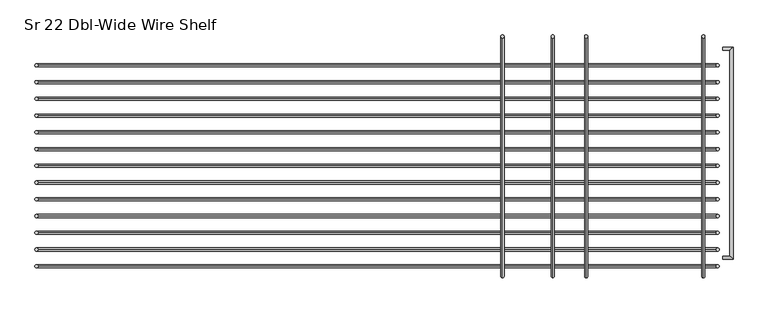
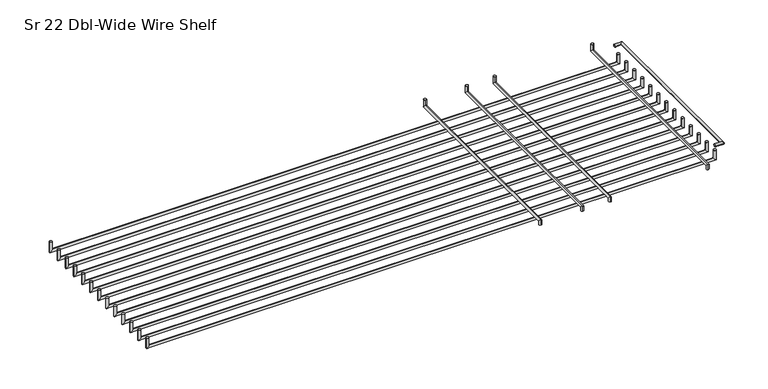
"""IFC4 building model written with IfcOpenShell, lengths in millimetres: furniture geometry, HermanMiller_Carts_CT521_CartShelf : Sr 22 Dbl-Wide Wire Shelf."""

from ifc_helpers import new_model, si_unit, frame, origin, place, context, project, spatial, circle_curve, ellipse_curve, source, transform, mapped, element, save
from ifc_brep_helpers import plane_surface, cylinder_surface, advanced_brep


def sr_22_dbl_wide_wire_shelf_071ba13a(model_context):
    return source(origin(), model_context, "Body", "AdvancedBrep", [
        advanced_brep(
        [(743.3373883, -178.26736, 1556.5501), (743.3373883, -183.04256, 1556.5501), (743.3373883, 133.81736, 1556.5501), (743.3373883, 138.59256, 1556.5501), (759.2123883, -183.04256, 1556.5501), (754.4371883, -178.26736, 1556.5501), (759.2123883, 138.59256, 1556.5501), (754.4371883, 133.81736, 1556.5501)],
        [
            (0, 1, circle_curve(frame((743.3373883, -180.65496, 1556.5501), z_axis=(-1.0, 0.0, 0.0), x_axis=(0.0, -1.0, 0.0)), 2.3876)),
            (1, 0, circle_curve(frame((743.3373883, -180.65496, 1556.5501), z_axis=(-1.0, 0.0, 0.0), x_axis=(0.0, -1.0, 0.0)), 2.3876)),
            (2, 3, circle_curve(frame((743.3373883, 136.20496, 1556.5501), z_axis=(-1.0, 0.0, 0.0), x_axis=(0.0, 1.0, 0.0)), 2.3876)),
            (3, 2, circle_curve(frame((743.3373883, 136.20496, 1556.5501), z_axis=(-1.0, 0.0, 0.0), x_axis=(0.0, 1.0, 0.0)), 2.3876)),
            (1, 4),
            (4, 5, ellipse_curve(frame((756.8247883, -180.65496, 1556.5501), z_axis=(-0.7071067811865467, -0.7071067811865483, 0.0), x_axis=(-0.7071067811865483, 0.7071067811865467, 0.0)), 3.3765763, 2.3876)),
            (5, 0),
            (5, 4, ellipse_curve(frame((756.8247883, -180.65496, 1556.5501), z_axis=(-0.7071067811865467, -0.7071067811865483, 0.0), x_axis=(-0.7071067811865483, 0.7071067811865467, 0.0)), 3.3765763, 2.3876)),
            (4, 6),
            (6, 7, ellipse_curve(frame((756.8247883, 136.20496, 1556.5501), z_axis=(0.7071067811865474, -0.7071067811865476, 0.0), x_axis=(-0.7071067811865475, -0.7071067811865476, 0.0)), 3.3765763, 2.3876)),
            (7, 5),
            (7, 6, ellipse_curve(frame((756.8247883, 136.20496, 1556.5501), z_axis=(0.7071067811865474, -0.7071067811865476, 0.0), x_axis=(-0.7071067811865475, -0.7071067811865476, 0.0)), 3.3765763, 2.3876)),
            (6, 3),
            (2, 7),
        ],
        [
            plane_surface(frame((743.3373883, -180.65496, 1556.5501), z_axis=(-1.0, 0.0, 0.0), x_axis=(0.0, 0.0, 1.0))),
            plane_surface(frame((743.3373883, 136.20496, 1556.5501), z_axis=(-1.0, 0.0, 0.0), x_axis=(0.0, 0.0, 1.0))),
            cylinder_surface(frame((743.3373883, -180.65496, 1556.5501), z_axis=(-1.0, 0.0, 0.0), x_axis=(0.0, -1.0, 0.0)), 2.3876),
            cylinder_surface(frame((756.8247883, -180.65496, 1556.5501), z_axis=(0.0, -1.0, 0.0), x_axis=(1.0, 0.0, 0.0)), 2.3876),
            cylinder_surface(frame((756.8247883, 136.20496, 1556.5501), z_axis=(1.0, 0.0, 0.0), x_axis=(0.0, 1.0, 0.0)), 2.3876),
        ],
        [
            (0, [[1, 2]]),
            (1, [[3, 4]]),
            (2, [[5, 6, 7, -2]]),
            (2, [[-7, 8, -5, -1]]),
            (3, [[9, 10, 11, -6]]),
            (3, [[-11, 12, -9, -8]]),
            (4, [[13, -3, 14, -10]]),
            (4, [[-14, -4, -13, -12]]),
        ],
    ),
        advanced_brep(
        [(733.4732983, 34.925, 1558.9377), (738.2357983, 34.925, 1558.9377), (733.4732983, 34.925, 1543.6596), (738.2357983, 34.925, 1538.8971), (-295.1886017, 34.925, 1543.6596), (-299.9511017, 34.925, 1538.8971), (-295.1886017, 34.925, 1558.9377), (-299.9511017, 34.925, 1558.9377)],
        [
            (0, 1, circle_curve(frame((735.8545483, 34.925, 1558.9377), z_axis=(0.0, 0.0, 1.0), x_axis=(1.0, 0.0, 0.0)), 2.38125)),
            (1, 0, circle_curve(frame((735.8545483, 34.925, 1558.9377), z_axis=(0.0, 0.0, 1.0), x_axis=(1.0, 0.0, 0.0)), 2.38125)),
            (0, 2),
            (2, 3, ellipse_curve(frame((735.8545483, 34.925, 1541.27835), z_axis=(0.7071067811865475, 0.0, 0.7071067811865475), x_axis=(-0.7071067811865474, 0.0, 0.7071067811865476)), 3.367596, 2.38125)),
            (3, 1),
            (3, 2, ellipse_curve(frame((735.8545483, 34.925, 1541.27835), z_axis=(0.7071067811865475, 0.0, 0.7071067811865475), x_axis=(-0.7071067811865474, 0.0, 0.7071067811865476)), 3.367596, 2.38125)),
            (2, 4),
            (4, 5, ellipse_curve(frame((-297.5698517, 34.925, 1541.27835), z_axis=(0.7071067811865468, 0.0, -0.7071067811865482), x_axis=(0.7071067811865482, 0.0, 0.7071067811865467)), 3.367596, 2.38125)),
            (5, 3),
            (5, 4, ellipse_curve(frame((-297.5698517, 34.925, 1541.27835), z_axis=(0.7071067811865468, 0.0, -0.7071067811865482), x_axis=(0.7071067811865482, 0.0, 0.7071067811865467)), 3.367596, 2.38125)),
            (6, 7, circle_curve(frame((-297.5698517, 34.925, 1558.9377), z_axis=(0.0, 0.0, 1.0), x_axis=(-1.0, 0.0, 0.0)), 2.38125)),
            (7, 6, circle_curve(frame((-297.5698517, 34.925, 1558.9377), z_axis=(0.0, 0.0, 1.0), x_axis=(-1.0, 0.0, 0.0)), 2.38125)),
            (4, 6),
            (7, 5),
        ],
        [
            plane_surface(frame((735.8545483, 34.925, 1558.9377), z_axis=(0.0, 0.0, 1.0), x_axis=(0.0, -1.0, 0.0))),
            cylinder_surface(frame((735.8545483, 34.925, 1558.9377), z_axis=(0.0, 0.0, 1.0), x_axis=(1.0, 0.0, 0.0)), 2.38125),
            cylinder_surface(frame((735.8545483, 34.925, 1541.27835), z_axis=(1.0, 0.0, 0.0), x_axis=(0.0, 0.0, -1.0)), 2.38125),
            plane_surface(frame((-297.5698517, 34.925, 1558.9377), z_axis=(0.0, 0.0, 1.0), x_axis=(0.0, -1.0, 0.0))),
            cylinder_surface(frame((-297.5698517, 34.925, 1541.27835), z_axis=(0.0, 0.0, -1.0), x_axis=(-1.0, 0.0, 0.0)), 2.38125),
        ],
        [
            (0, [[1, 2]]),
            (1, [[-1, 3, 4, 5]]),
            (1, [[-2, -5, 6, -3]]),
            (2, [[-4, 7, 8, 9]]),
            (2, [[-6, -9, 10, -7]]),
            (3, [[11, 12]]),
            (4, [[-8, 13, -12, 14]]),
            (4, [[-10, -14, -11, -13]]),
        ],
    ),
        advanced_brep(
        [(733.4732983, -15.875, 1558.9377), (738.2357983, -15.875, 1558.9377), (733.4732983, -15.875, 1543.6596), (738.2357983, -15.875, 1538.8971), (-295.1886017, -15.875, 1543.6596), (-299.9511017, -15.875, 1538.8971), (-295.1886017, -15.875, 1558.9377), (-299.9511017, -15.875, 1558.9377)],
        [
            (0, 1, circle_curve(frame((735.8545483, -15.875, 1558.9377), z_axis=(0.0, 0.0, 1.0), x_axis=(1.0, 0.0, 0.0)), 2.38125)),
            (1, 0, circle_curve(frame((735.8545483, -15.875, 1558.9377), z_axis=(0.0, 0.0, 1.0), x_axis=(1.0, 0.0, 0.0)), 2.38125)),
            (0, 2),
            (2, 3, ellipse_curve(frame((735.8545483, -15.875, 1541.27835), z_axis=(0.7071067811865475, 0.0, 0.7071067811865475), x_axis=(-0.7071067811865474, 0.0, 0.7071067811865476)), 3.367596, 2.38125)),
            (3, 1),
            (3, 2, ellipse_curve(frame((735.8545483, -15.875, 1541.27835), z_axis=(0.7071067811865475, 0.0, 0.7071067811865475), x_axis=(-0.7071067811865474, 0.0, 0.7071067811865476)), 3.367596, 2.38125)),
            (2, 4),
            (4, 5, ellipse_curve(frame((-297.5698517, -15.875, 1541.27835), z_axis=(0.7071067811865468, 0.0, -0.7071067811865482), x_axis=(0.7071067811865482, 0.0, 0.7071067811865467)), 3.367596, 2.38125)),
            (5, 3),
            (5, 4, ellipse_curve(frame((-297.5698517, -15.875, 1541.27835), z_axis=(0.7071067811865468, 0.0, -0.7071067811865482), x_axis=(0.7071067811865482, 0.0, 0.7071067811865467)), 3.367596, 2.38125)),
            (6, 7, circle_curve(frame((-297.5698517, -15.875, 1558.9377), z_axis=(0.0, 0.0, 1.0), x_axis=(-1.0, 0.0, 0.0)), 2.38125)),
            (7, 6, circle_curve(frame((-297.5698517, -15.875, 1558.9377), z_axis=(0.0, 0.0, 1.0), x_axis=(-1.0, 0.0, 0.0)), 2.38125)),
            (4, 6),
            (7, 5),
        ],
        [
            plane_surface(frame((735.8545483, -15.875, 1558.9377), z_axis=(0.0, 0.0, 1.0), x_axis=(0.0, -1.0, 0.0))),
            cylinder_surface(frame((735.8545483, -15.875, 1558.9377), z_axis=(0.0, 0.0, 1.0), x_axis=(1.0, 0.0, 0.0)), 2.38125),
            cylinder_surface(frame((735.8545483, -15.875, 1541.27835), z_axis=(1.0, 0.0, 0.0), x_axis=(0.0, 0.0, -1.0)), 2.38125),
            plane_surface(frame((-297.5698517, -15.875, 1558.9377), z_axis=(0.0, 0.0, 1.0), x_axis=(0.0, -1.0, 0.0))),
            cylinder_surface(frame((-297.5698517, -15.875, 1541.27835), z_axis=(0.0, 0.0, -1.0), x_axis=(-1.0, 0.0, 0.0)), 2.38125),
        ],
        [
            (0, [[1, 2]]),
            (1, [[-1, 3, 4, 5]]),
            (1, [[-2, -5, 6, -3]]),
            (2, [[-4, 7, 8, 9]]),
            (2, [[-6, -9, 10, -7]]),
            (3, [[11, 12]]),
            (4, [[-8, 13, -12, 14]]),
            (4, [[-10, -14, -11, -13]]),
        ],
    ),
        advanced_brep(
        [(733.4732983, -66.675, 1558.9377), (738.2357983, -66.675, 1558.9377), (733.4732983, -66.675, 1543.6596), (738.2357983, -66.675, 1538.8971), (-295.1886017, -66.675, 1543.6596), (-299.9511017, -66.675, 1538.8971), (-295.1886017, -66.675, 1558.9377), (-299.9511017, -66.675, 1558.9377)],
        [
            (0, 1, circle_curve(frame((735.8545483, -66.675, 1558.9377), z_axis=(0.0, 0.0, 1.0), x_axis=(1.0, 0.0, 0.0)), 2.38125)),
            (1, 0, circle_curve(frame((735.8545483, -66.675, 1558.9377), z_axis=(0.0, 0.0, 1.0), x_axis=(1.0, 0.0, 0.0)), 2.38125)),
            (0, 2),
            (2, 3, ellipse_curve(frame((735.8545483, -66.675, 1541.27835), z_axis=(0.7071067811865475, 0.0, 0.7071067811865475), x_axis=(-0.7071067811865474, 0.0, 0.7071067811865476)), 3.367596, 2.38125)),
            (3, 1),
            (3, 2, ellipse_curve(frame((735.8545483, -66.675, 1541.27835), z_axis=(0.7071067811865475, 0.0, 0.7071067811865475), x_axis=(-0.7071067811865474, 0.0, 0.7071067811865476)), 3.367596, 2.38125)),
            (2, 4),
            (4, 5, ellipse_curve(frame((-297.5698517, -66.675, 1541.27835), z_axis=(0.7071067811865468, 0.0, -0.7071067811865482), x_axis=(0.7071067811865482, 0.0, 0.7071067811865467)), 3.367596, 2.38125)),
            (5, 3),
            (5, 4, ellipse_curve(frame((-297.5698517, -66.675, 1541.27835), z_axis=(0.7071067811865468, 0.0, -0.7071067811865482), x_axis=(0.7071067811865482, 0.0, 0.7071067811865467)), 3.367596, 2.38125)),
            (6, 7, circle_curve(frame((-297.5698517, -66.675, 1558.9377), z_axis=(0.0, 0.0, 1.0), x_axis=(-1.0, 0.0, 0.0)), 2.38125)),
            (7, 6, circle_curve(frame((-297.5698517, -66.675, 1558.9377), z_axis=(0.0, 0.0, 1.0), x_axis=(-1.0, 0.0, 0.0)), 2.38125)),
            (4, 6),
            (7, 5),
        ],
        [
            plane_surface(frame((735.8545483, -66.675, 1558.9377), z_axis=(0.0, 0.0, 1.0), x_axis=(0.0, -1.0, 0.0))),
            cylinder_surface(frame((735.8545483, -66.675, 1558.9377), z_axis=(0.0, 0.0, 1.0), x_axis=(1.0, 0.0, 0.0)), 2.38125),
            cylinder_surface(frame((735.8545483, -66.675, 1541.27835), z_axis=(1.0, 0.0, 0.0), x_axis=(0.0, 0.0, -1.0)), 2.38125),
            plane_surface(frame((-297.5698517, -66.675, 1558.9377), z_axis=(0.0, 0.0, 1.0), x_axis=(0.0, -1.0, 0.0))),
            cylinder_surface(frame((-297.5698517, -66.675, 1541.27835), z_axis=(0.0, 0.0, -1.0), x_axis=(-1.0, 0.0, 0.0)), 2.38125),
        ],
        [
            (0, [[1, 2]]),
            (1, [[-1, 3, 4, 5]]),
            (1, [[-2, -5, 6, -3]]),
            (2, [[-4, 7, 8, 9]]),
            (2, [[-6, -9, 10, -7]]),
            (3, [[11, 12]]),
            (4, [[-8, 13, -12, 14]]),
            (4, [[-10, -14, -11, -13]]),
        ],
    ),
        advanced_brep(
        [(733.4732983, -117.475, 1558.9377), (738.2357983, -117.475, 1558.9377), (733.4732983, -117.475, 1543.6596), (738.2357983, -117.475, 1538.8971), (-295.1886017, -117.475, 1543.6596), (-299.9511017, -117.475, 1538.8971), (-295.1886017, -117.475, 1558.9377), (-299.9511017, -117.475, 1558.9377)],
        [
            (0, 1, circle_curve(frame((735.8545483, -117.475, 1558.9377), z_axis=(0.0, 0.0, 1.0), x_axis=(1.0, 0.0, 0.0)), 2.38125)),
            (1, 0, circle_curve(frame((735.8545483, -117.475, 1558.9377), z_axis=(0.0, 0.0, 1.0), x_axis=(1.0, 0.0, 0.0)), 2.38125)),
            (0, 2),
            (2, 3, ellipse_curve(frame((735.8545483, -117.475, 1541.27835), z_axis=(0.7071067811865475, 0.0, 0.7071067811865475), x_axis=(-0.7071067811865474, 0.0, 0.7071067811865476)), 3.367596, 2.38125)),
            (3, 1),
            (3, 2, ellipse_curve(frame((735.8545483, -117.475, 1541.27835), z_axis=(0.7071067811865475, 0.0, 0.7071067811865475), x_axis=(-0.7071067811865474, 0.0, 0.7071067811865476)), 3.367596, 2.38125)),
            (2, 4),
            (4, 5, ellipse_curve(frame((-297.5698517, -117.475, 1541.27835), z_axis=(0.7071067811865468, 0.0, -0.7071067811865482), x_axis=(0.7071067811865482, 0.0, 0.7071067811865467)), 3.367596, 2.38125)),
            (5, 3),
            (5, 4, ellipse_curve(frame((-297.5698517, -117.475, 1541.27835), z_axis=(0.7071067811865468, 0.0, -0.7071067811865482), x_axis=(0.7071067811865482, 0.0, 0.7071067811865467)), 3.367596, 2.38125)),
            (6, 7, circle_curve(frame((-297.5698517, -117.475, 1558.9377), z_axis=(0.0, 0.0, 1.0), x_axis=(-1.0, 0.0, 0.0)), 2.38125)),
            (7, 6, circle_curve(frame((-297.5698517, -117.475, 1558.9377), z_axis=(0.0, 0.0, 1.0), x_axis=(-1.0, 0.0, 0.0)), 2.38125)),
            (4, 6),
            (7, 5),
        ],
        [
            plane_surface(frame((735.8545483, -117.475, 1558.9377), z_axis=(0.0, 0.0, 1.0), x_axis=(0.0, -1.0, 0.0))),
            cylinder_surface(frame((735.8545483, -117.475, 1558.9377), z_axis=(0.0, 0.0, 1.0), x_axis=(1.0, 0.0, 0.0)), 2.38125),
            cylinder_surface(frame((735.8545483, -117.475, 1541.27835), z_axis=(1.0, 0.0, 0.0), x_axis=(0.0, 0.0, -1.0)), 2.38125),
            plane_surface(frame((-297.5698517, -117.475, 1558.9377), z_axis=(0.0, 0.0, 1.0), x_axis=(0.0, -1.0, 0.0))),
            cylinder_surface(frame((-297.5698517, -117.475, 1541.27835), z_axis=(0.0, 0.0, -1.0), x_axis=(-1.0, 0.0, 0.0)), 2.38125),
        ],
        [
            (0, [[1, 2]]),
            (1, [[-1, 3, 4, 5]]),
            (1, [[-2, -5, 6, -3]]),
            (2, [[-4, 7, 8, 9]]),
            (2, [[-6, -9, 10, -7]]),
            (3, [[11, 12]]),
            (4, [[-8, 13, -12, 14]]),
            (4, [[-10, -14, -11, -13]]),
        ],
    ),
        advanced_brep(
        [(733.4732983, -168.275, 1558.9377), (738.2357983, -168.275, 1558.9377), (733.4732983, -168.275, 1543.6596), (738.2357983, -168.275, 1538.8971), (-295.1886017, -168.275, 1543.6596), (-299.9511017, -168.275, 1538.8971), (-295.1886017, -168.275, 1558.9377), (-299.9511017, -168.275, 1558.9377)],
        [
            (0, 1, circle_curve(frame((735.8545483, -168.275, 1558.9377), z_axis=(0.0, 0.0, 1.0), x_axis=(1.0, 0.0, 0.0)), 2.38125)),
            (1, 0, circle_curve(frame((735.8545483, -168.275, 1558.9377), z_axis=(0.0, 0.0, 1.0), x_axis=(1.0, 0.0, 0.0)), 2.38125)),
            (0, 2),
            (2, 3, ellipse_curve(frame((735.8545483, -168.275, 1541.27835), z_axis=(0.7071067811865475, 0.0, 0.7071067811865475), x_axis=(-0.7071067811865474, 0.0, 0.7071067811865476)), 3.367596, 2.38125)),
            (3, 1),
            (3, 2, ellipse_curve(frame((735.8545483, -168.275, 1541.27835), z_axis=(0.7071067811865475, 0.0, 0.7071067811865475), x_axis=(-0.7071067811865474, 0.0, 0.7071067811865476)), 3.367596, 2.38125)),
            (2, 4),
            (4, 5, ellipse_curve(frame((-297.5698517, -168.275, 1541.27835), z_axis=(0.7071067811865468, 0.0, -0.7071067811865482), x_axis=(0.7071067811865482, 0.0, 0.7071067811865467)), 3.367596, 2.38125)),
            (5, 3),
            (5, 4, ellipse_curve(frame((-297.5698517, -168.275, 1541.27835), z_axis=(0.7071067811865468, 0.0, -0.7071067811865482), x_axis=(0.7071067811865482, 0.0, 0.7071067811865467)), 3.367596, 2.38125)),
            (6, 7, circle_curve(frame((-297.5698517, -168.275, 1558.9377), z_axis=(0.0, 0.0, 1.0), x_axis=(-1.0, 0.0, 0.0)), 2.38125)),
            (7, 6, circle_curve(frame((-297.5698517, -168.275, 1558.9377), z_axis=(0.0, 0.0, 1.0), x_axis=(-1.0, 0.0, 0.0)), 2.38125)),
            (4, 6),
            (7, 5),
        ],
        [
            plane_surface(frame((735.8545483, -168.275, 1558.9377), z_axis=(0.0, 0.0, 1.0), x_axis=(0.0, -1.0, 0.0))),
            cylinder_surface(frame((735.8545483, -168.275, 1558.9377), z_axis=(0.0, 0.0, 1.0), x_axis=(1.0, 0.0, 0.0)), 2.38125),
            cylinder_surface(frame((735.8545483, -168.275, 1541.27835), z_axis=(1.0, 0.0, 0.0), x_axis=(0.0, 0.0, -1.0)), 2.38125),
            plane_surface(frame((-297.5698517, -168.275, 1558.9377), z_axis=(0.0, 0.0, 1.0), x_axis=(0.0, -1.0, 0.0))),
            cylinder_surface(frame((-297.5698517, -168.275, 1541.27835), z_axis=(0.0, 0.0, -1.0), x_axis=(-1.0, 0.0, 0.0)), 2.38125),
        ],
        [
            (0, [[1, 2]]),
            (1, [[-1, 3, 4, 5]]),
            (1, [[-2, -5, 6, -3]]),
            (2, [[-4, 7, 8, 9]]),
            (2, [[-6, -9, 10, -7]]),
            (3, [[11, 12]]),
            (4, [[-8, 13, -12, 14]]),
            (4, [[-10, -14, -11, -13]]),
        ],
    ),
        advanced_brep(
        [(733.4732983, -193.675, 1558.9377), (738.2357983, -193.675, 1558.9377), (733.4732983, -193.675, 1543.6596), (738.2357983, -193.675, 1538.8971), (-295.1886017, -193.675, 1543.6596), (-299.9511017, -193.675, 1538.8971), (-295.1886017, -193.675, 1558.9377), (-299.9511017, -193.675, 1558.9377)],
        [
            (0, 1, circle_curve(frame((735.8545483, -193.675, 1558.9377), z_axis=(0.0, 0.0, 1.0), x_axis=(1.0, 0.0, 0.0)), 2.38125)),
            (1, 0, circle_curve(frame((735.8545483, -193.675, 1558.9377), z_axis=(0.0, 0.0, 1.0), x_axis=(1.0, 0.0, 0.0)), 2.38125)),
            (0, 2),
            (2, 3, ellipse_curve(frame((735.8545483, -193.675, 1541.27835), z_axis=(0.7071067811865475, 0.0, 0.7071067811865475), x_axis=(-0.7071067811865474, 0.0, 0.7071067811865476)), 3.367596, 2.38125)),
            (3, 1),
            (3, 2, ellipse_curve(frame((735.8545483, -193.675, 1541.27835), z_axis=(0.7071067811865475, 0.0, 0.7071067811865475), x_axis=(-0.7071067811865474, 0.0, 0.7071067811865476)), 3.367596, 2.38125)),
            (2, 4),
            (4, 5, ellipse_curve(frame((-297.5698517, -193.675, 1541.27835), z_axis=(0.7071067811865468, 0.0, -0.7071067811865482), x_axis=(0.7071067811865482, 0.0, 0.7071067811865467)), 3.367596, 2.38125)),
            (5, 3),
            (5, 4, ellipse_curve(frame((-297.5698517, -193.675, 1541.27835), z_axis=(0.7071067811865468, 0.0, -0.7071067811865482), x_axis=(0.7071067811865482, 0.0, 0.7071067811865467)), 3.367596, 2.38125)),
            (6, 7, circle_curve(frame((-297.5698517, -193.675, 1558.9377), z_axis=(0.0, 0.0, 1.0), x_axis=(-1.0, 0.0, 0.0)), 2.38125)),
            (7, 6, circle_curve(frame((-297.5698517, -193.675, 1558.9377), z_axis=(0.0, 0.0, 1.0), x_axis=(-1.0, 0.0, 0.0)), 2.38125)),
            (4, 6),
            (7, 5),
        ],
        [
            plane_surface(frame((735.8545483, -193.675, 1558.9377), z_axis=(0.0, 0.0, 1.0), x_axis=(0.0, -1.0, 0.0))),
            cylinder_surface(frame((735.8545483, -193.675, 1558.9377), z_axis=(0.0, 0.0, 1.0), x_axis=(1.0, 0.0, 0.0)), 2.38125),
            cylinder_surface(frame((735.8545483, -193.675, 1541.27835), z_axis=(1.0, 0.0, 0.0), x_axis=(0.0, 0.0, -1.0)), 2.38125),
            plane_surface(frame((-297.5698517, -193.675, 1558.9377), z_axis=(0.0, 0.0, 1.0), x_axis=(0.0, -1.0, 0.0))),
            cylinder_surface(frame((-297.5698517, -193.675, 1541.27835), z_axis=(0.0, 0.0, -1.0), x_axis=(-1.0, 0.0, 0.0)), 2.38125),
        ],
        [
            (0, [[1, 2]]),
            (1, [[-1, 3, 4, 5]]),
            (1, [[-2, -5, 6, -3]]),
            (2, [[-4, 7, 8, 9]]),
            (2, [[-6, -9, 10, -7]]),
            (3, [[11, 12]]),
            (4, [[-8, 13, -12, 14]]),
            (4, [[-10, -14, -11, -13]]),
        ],
    ),
        advanced_brep(
        [(733.4732983, -142.875, 1558.9377), (738.2357983, -142.875, 1558.9377), (733.4732983, -142.875, 1543.6596), (738.2357983, -142.875, 1538.8971), (-295.1886017, -142.875, 1543.6596), (-299.9511017, -142.875, 1538.8971), (-295.1886017, -142.875, 1558.9377), (-299.9511017, -142.875, 1558.9377)],
        [
            (0, 1, circle_curve(frame((735.8545483, -142.875, 1558.9377), z_axis=(0.0, 0.0, 1.0), x_axis=(1.0, 0.0, 0.0)), 2.38125)),
            (1, 0, circle_curve(frame((735.8545483, -142.875, 1558.9377), z_axis=(0.0, 0.0, 1.0), x_axis=(1.0, 0.0, 0.0)), 2.38125)),
            (0, 2),
            (2, 3, ellipse_curve(frame((735.8545483, -142.875, 1541.27835), z_axis=(0.7071067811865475, 0.0, 0.7071067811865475), x_axis=(-0.7071067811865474, 0.0, 0.7071067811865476)), 3.367596, 2.38125)),
            (3, 1),
            (3, 2, ellipse_curve(frame((735.8545483, -142.875, 1541.27835), z_axis=(0.7071067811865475, 0.0, 0.7071067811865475), x_axis=(-0.7071067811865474, 0.0, 0.7071067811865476)), 3.367596, 2.38125)),
            (2, 4),
            (4, 5, ellipse_curve(frame((-297.5698517, -142.875, 1541.27835), z_axis=(0.7071067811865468, 0.0, -0.7071067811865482), x_axis=(0.7071067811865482, 0.0, 0.7071067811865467)), 3.367596, 2.38125)),
            (5, 3),
            (5, 4, ellipse_curve(frame((-297.5698517, -142.875, 1541.27835), z_axis=(0.7071067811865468, 0.0, -0.7071067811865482), x_axis=(0.7071067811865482, 0.0, 0.7071067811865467)), 3.367596, 2.38125)),
            (6, 7, circle_curve(frame((-297.5698517, -142.875, 1558.9377), z_axis=(0.0, 0.0, 1.0), x_axis=(-1.0, 0.0, 0.0)), 2.38125)),
            (7, 6, circle_curve(frame((-297.5698517, -142.875, 1558.9377), z_axis=(0.0, 0.0, 1.0), x_axis=(-1.0, 0.0, 0.0)), 2.38125)),
            (4, 6),
            (7, 5),
        ],
        [
            plane_surface(frame((735.8545483, -142.875, 1558.9377), z_axis=(0.0, 0.0, 1.0), x_axis=(0.0, -1.0, 0.0))),
            cylinder_surface(frame((735.8545483, -142.875, 1558.9377), z_axis=(0.0, 0.0, 1.0), x_axis=(1.0, 0.0, 0.0)), 2.38125),
            cylinder_surface(frame((735.8545483, -142.875, 1541.27835), z_axis=(1.0, 0.0, 0.0), x_axis=(0.0, 0.0, -1.0)), 2.38125),
            plane_surface(frame((-297.5698517, -142.875, 1558.9377), z_axis=(0.0, 0.0, 1.0), x_axis=(0.0, -1.0, 0.0))),
            cylinder_surface(frame((-297.5698517, -142.875, 1541.27835), z_axis=(0.0, 0.0, -1.0), x_axis=(-1.0, 0.0, 0.0)), 2.38125),
        ],
        [
            (0, [[1, 2]]),
            (1, [[-1, 3, 4, 5]]),
            (1, [[-2, -5, 6, -3]]),
            (2, [[-4, 7, 8, 9]]),
            (2, [[-6, -9, 10, -7]]),
            (3, [[11, 12]]),
            (4, [[-8, 13, -12, 14]]),
            (4, [[-10, -14, -11, -13]]),
        ],
    ),
        advanced_brep(
        [(733.4732983, -92.075, 1558.9377), (738.2357983, -92.075, 1558.9377), (733.4732983, -92.075, 1543.6596), (738.2357983, -92.075, 1538.8971), (-295.1886017, -92.075, 1543.6596), (-299.9511017, -92.075, 1538.8971), (-295.1886017, -92.075, 1558.9377), (-299.9511017, -92.075, 1558.9377)],
        [
            (0, 1, circle_curve(frame((735.8545483, -92.075, 1558.9377), z_axis=(0.0, 0.0, 1.0), x_axis=(1.0, 0.0, 0.0)), 2.38125)),
            (1, 0, circle_curve(frame((735.8545483, -92.075, 1558.9377), z_axis=(0.0, 0.0, 1.0), x_axis=(1.0, 0.0, 0.0)), 2.38125)),
            (0, 2),
            (2, 3, ellipse_curve(frame((735.8545483, -92.075, 1541.27835), z_axis=(0.7071067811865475, 0.0, 0.7071067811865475), x_axis=(-0.7071067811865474, 0.0, 0.7071067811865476)), 3.367596, 2.38125)),
            (3, 1),
            (3, 2, ellipse_curve(frame((735.8545483, -92.075, 1541.27835), z_axis=(0.7071067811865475, 0.0, 0.7071067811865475), x_axis=(-0.7071067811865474, 0.0, 0.7071067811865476)), 3.367596, 2.38125)),
            (2, 4),
            (4, 5, ellipse_curve(frame((-297.5698517, -92.075, 1541.27835), z_axis=(0.7071067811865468, 0.0, -0.7071067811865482), x_axis=(0.7071067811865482, 0.0, 0.7071067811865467)), 3.367596, 2.38125)),
            (5, 3),
            (5, 4, ellipse_curve(frame((-297.5698517, -92.075, 1541.27835), z_axis=(0.7071067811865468, 0.0, -0.7071067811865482), x_axis=(0.7071067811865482, 0.0, 0.7071067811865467)), 3.367596, 2.38125)),
            (6, 7, circle_curve(frame((-297.5698517, -92.075, 1558.9377), z_axis=(0.0, 0.0, 1.0), x_axis=(-1.0, 0.0, 0.0)), 2.38125)),
            (7, 6, circle_curve(frame((-297.5698517, -92.075, 1558.9377), z_axis=(0.0, 0.0, 1.0), x_axis=(-1.0, 0.0, 0.0)), 2.38125)),
            (4, 6),
            (7, 5),
        ],
        [
            plane_surface(frame((735.8545483, -92.075, 1558.9377), z_axis=(0.0, 0.0, 1.0), x_axis=(0.0, -1.0, 0.0))),
            cylinder_surface(frame((735.8545483, -92.075, 1558.9377), z_axis=(0.0, 0.0, 1.0), x_axis=(1.0, 0.0, 0.0)), 2.38125),
            cylinder_surface(frame((735.8545483, -92.075, 1541.27835), z_axis=(1.0, 0.0, 0.0), x_axis=(0.0, 0.0, -1.0)), 2.38125),
            plane_surface(frame((-297.5698517, -92.075, 1558.9377), z_axis=(0.0, 0.0, 1.0), x_axis=(0.0, -1.0, 0.0))),
            cylinder_surface(frame((-297.5698517, -92.075, 1541.27835), z_axis=(0.0, 0.0, -1.0), x_axis=(-1.0, 0.0, 0.0)), 2.38125),
        ],
        [
            (0, [[1, 2]]),
            (1, [[-1, 3, 4, 5]]),
            (1, [[-2, -5, 6, -3]]),
            (2, [[-4, 7, 8, 9]]),
            (2, [[-6, -9, 10, -7]]),
            (3, [[11, 12]]),
            (4, [[-8, 13, -12, 14]]),
            (4, [[-10, -14, -11, -13]]),
        ],
    ),
        advanced_brep(
        [(733.4732983, -41.275, 1558.9377), (738.2357983, -41.275, 1558.9377), (733.4732983, -41.275, 1543.6596), (738.2357983, -41.275, 1538.8971), (-295.1886017, -41.275, 1543.6596), (-299.9511017, -41.275, 1538.8971), (-295.1886017, -41.275, 1558.9377), (-299.9511017, -41.275, 1558.9377)],
        [
            (0, 1, circle_curve(frame((735.8545483, -41.275, 1558.9377), z_axis=(0.0, 0.0, 1.0), x_axis=(1.0, 0.0, 0.0)), 2.38125)),
            (1, 0, circle_curve(frame((735.8545483, -41.275, 1558.9377), z_axis=(0.0, 0.0, 1.0), x_axis=(1.0, 0.0, 0.0)), 2.38125)),
            (0, 2),
            (2, 3, ellipse_curve(frame((735.8545483, -41.275, 1541.27835), z_axis=(0.7071067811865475, 0.0, 0.7071067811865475), x_axis=(-0.7071067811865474, 0.0, 0.7071067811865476)), 3.367596, 2.38125)),
            (3, 1),
            (3, 2, ellipse_curve(frame((735.8545483, -41.275, 1541.27835), z_axis=(0.7071067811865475, 0.0, 0.7071067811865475), x_axis=(-0.7071067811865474, 0.0, 0.7071067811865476)), 3.367596, 2.38125)),
            (2, 4),
            (4, 5, ellipse_curve(frame((-297.5698517, -41.275, 1541.27835), z_axis=(0.7071067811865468, 0.0, -0.7071067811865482), x_axis=(0.7071067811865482, 0.0, 0.7071067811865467)), 3.367596, 2.38125)),
            (5, 3),
            (5, 4, ellipse_curve(frame((-297.5698517, -41.275, 1541.27835), z_axis=(0.7071067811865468, 0.0, -0.7071067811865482), x_axis=(0.7071067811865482, 0.0, 0.7071067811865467)), 3.367596, 2.38125)),
            (6, 7, circle_curve(frame((-297.5698517, -41.275, 1558.9377), z_axis=(0.0, 0.0, 1.0), x_axis=(-1.0, 0.0, 0.0)), 2.38125)),
            (7, 6, circle_curve(frame((-297.5698517, -41.275, 1558.9377), z_axis=(0.0, 0.0, 1.0), x_axis=(-1.0, 0.0, 0.0)), 2.38125)),
            (4, 6),
            (7, 5),
        ],
        [
            plane_surface(frame((735.8545483, -41.275, 1558.9377), z_axis=(0.0, 0.0, 1.0), x_axis=(0.0, -1.0, 0.0))),
            cylinder_surface(frame((735.8545483, -41.275, 1558.9377), z_axis=(0.0, 0.0, 1.0), x_axis=(1.0, 0.0, 0.0)), 2.38125),
            cylinder_surface(frame((735.8545483, -41.275, 1541.27835), z_axis=(1.0, 0.0, 0.0), x_axis=(0.0, 0.0, -1.0)), 2.38125),
            plane_surface(frame((-297.5698517, -41.275, 1558.9377), z_axis=(0.0, 0.0, 1.0), x_axis=(0.0, -1.0, 0.0))),
            cylinder_surface(frame((-297.5698517, -41.275, 1541.27835), z_axis=(0.0, 0.0, -1.0), x_axis=(-1.0, 0.0, 0.0)), 2.38125),
        ],
        [
            (0, [[1, 2]]),
            (1, [[-1, 3, 4, 5]]),
            (1, [[-2, -5, 6, -3]]),
            (2, [[-4, 7, 8, 9]]),
            (2, [[-6, -9, 10, -7]]),
            (3, [[11, 12]]),
            (4, [[-8, 13, -12, 14]]),
            (4, [[-10, -14, -11, -13]]),
        ],
    ),
        advanced_brep(
        [(733.4732983, 9.525, 1558.9377), (738.2357983, 9.525, 1558.9377), (733.4732983, 9.525, 1543.6596), (738.2357983, 9.525, 1538.8971), (-295.1886017, 9.525, 1543.6596), (-299.9511017, 9.525, 1538.8971), (-295.1886017, 9.525, 1558.9377), (-299.9511017, 9.525, 1558.9377)],
        [
            (0, 1, circle_curve(frame((735.8545483, 9.525, 1558.9377), z_axis=(0.0, 0.0, 1.0), x_axis=(1.0, 0.0, 0.0)), 2.38125)),
            (1, 0, circle_curve(frame((735.8545483, 9.525, 1558.9377), z_axis=(0.0, 0.0, 1.0), x_axis=(1.0, 0.0, 0.0)), 2.38125)),
            (0, 2),
            (2, 3, ellipse_curve(frame((735.8545483, 9.525, 1541.27835), z_axis=(0.7071067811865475, 0.0, 0.7071067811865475), x_axis=(-0.7071067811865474, 0.0, 0.7071067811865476)), 3.367596, 2.38125)),
            (3, 1),
            (3, 2, ellipse_curve(frame((735.8545483, 9.525, 1541.27835), z_axis=(0.7071067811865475, 0.0, 0.7071067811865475), x_axis=(-0.7071067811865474, 0.0, 0.7071067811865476)), 3.367596, 2.38125)),
            (2, 4),
            (4, 5, ellipse_curve(frame((-297.5698517, 9.525, 1541.27835), z_axis=(0.7071067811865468, 0.0, -0.7071067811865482), x_axis=(0.7071067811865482, 0.0, 0.7071067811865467)), 3.367596, 2.38125)),
            (5, 3),
            (5, 4, ellipse_curve(frame((-297.5698517, 9.525, 1541.27835), z_axis=(0.7071067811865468, 0.0, -0.7071067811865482), x_axis=(0.7071067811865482, 0.0, 0.7071067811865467)), 3.367596, 2.38125)),
            (6, 7, circle_curve(frame((-297.5698517, 9.525, 1558.9377), z_axis=(0.0, 0.0, 1.0), x_axis=(-1.0, 0.0, 0.0)), 2.38125)),
            (7, 6, circle_curve(frame((-297.5698517, 9.525, 1558.9377), z_axis=(0.0, 0.0, 1.0), x_axis=(-1.0, 0.0, 0.0)), 2.38125)),
            (4, 6),
            (7, 5),
        ],
        [
            plane_surface(frame((735.8545483, 9.525, 1558.9377), z_axis=(0.0, 0.0, 1.0), x_axis=(0.0, -1.0, 0.0))),
            cylinder_surface(frame((735.8545483, 9.525, 1558.9377), z_axis=(0.0, 0.0, 1.0), x_axis=(1.0, 0.0, 0.0)), 2.38125),
            cylinder_surface(frame((735.8545483, 9.525, 1541.27835), z_axis=(1.0, 0.0, 0.0), x_axis=(0.0, 0.0, -1.0)), 2.38125),
            plane_surface(frame((-297.5698517, 9.525, 1558.9377), z_axis=(0.0, 0.0, 1.0), x_axis=(0.0, -1.0, 0.0))),
            cylinder_surface(frame((-297.5698517, 9.525, 1541.27835), z_axis=(0.0, 0.0, -1.0), x_axis=(-1.0, 0.0, 0.0)), 2.38125),
        ],
        [
            (0, [[1, 2]]),
            (1, [[-1, 3, 4, 5]]),
            (1, [[-2, -5, 6, -3]]),
            (2, [[-4, 7, 8, 9]]),
            (2, [[-6, -9, 10, -7]]),
            (3, [[11, 12]]),
            (4, [[-8, 13, -12, 14]]),
            (4, [[-10, -14, -11, -13]]),
        ],
    ),
        advanced_brep(
        [(733.4732983, 60.325, 1558.9377), (738.2357983, 60.325, 1558.9377), (733.4732983, 60.325, 1543.6596), (738.2357983, 60.325, 1538.8971), (-295.1886017, 60.325, 1543.6596), (-299.9511017, 60.325, 1538.8971), (-295.1886017, 60.325, 1558.9377), (-299.9511017, 60.325, 1558.9377)],
        [
            (0, 1, circle_curve(frame((735.8545483, 60.325, 1558.9377), z_axis=(0.0, 0.0, 1.0), x_axis=(1.0, 0.0, 0.0)), 2.38125)),
            (1, 0, circle_curve(frame((735.8545483, 60.325, 1558.9377), z_axis=(0.0, 0.0, 1.0), x_axis=(1.0, 0.0, 0.0)), 2.38125)),
            (0, 2),
            (2, 3, ellipse_curve(frame((735.8545483, 60.325, 1541.27835), z_axis=(0.7071067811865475, 0.0, 0.7071067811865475), x_axis=(-0.7071067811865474, 0.0, 0.7071067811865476)), 3.367596, 2.38125)),
            (3, 1),
            (3, 2, ellipse_curve(frame((735.8545483, 60.325, 1541.27835), z_axis=(0.7071067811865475, 0.0, 0.7071067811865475), x_axis=(-0.7071067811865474, 0.0, 0.7071067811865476)), 3.367596, 2.38125)),
            (2, 4),
            (4, 5, ellipse_curve(frame((-297.5698517, 60.325, 1541.27835), z_axis=(0.7071067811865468, 0.0, -0.7071067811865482), x_axis=(0.7071067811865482, 0.0, 0.7071067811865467)), 3.367596, 2.38125)),
            (5, 3),
            (5, 4, ellipse_curve(frame((-297.5698517, 60.325, 1541.27835), z_axis=(0.7071067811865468, 0.0, -0.7071067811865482), x_axis=(0.7071067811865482, 0.0, 0.7071067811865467)), 3.367596, 2.38125)),
            (6, 7, circle_curve(frame((-297.5698517, 60.325, 1558.9377), z_axis=(0.0, 0.0, 1.0), x_axis=(-1.0, 0.0, 0.0)), 2.38125)),
            (7, 6, circle_curve(frame((-297.5698517, 60.325, 1558.9377), z_axis=(0.0, 0.0, 1.0), x_axis=(-1.0, 0.0, 0.0)), 2.38125)),
            (4, 6),
            (7, 5),
        ],
        [
            plane_surface(frame((735.8545483, 60.325, 1558.9377), z_axis=(0.0, 0.0, 1.0), x_axis=(0.0, -1.0, 0.0))),
            cylinder_surface(frame((735.8545483, 60.325, 1558.9377), z_axis=(0.0, 0.0, 1.0), x_axis=(1.0, 0.0, 0.0)), 2.38125),
            cylinder_surface(frame((735.8545483, 60.325, 1541.27835), z_axis=(1.0, 0.0, 0.0), x_axis=(0.0, 0.0, -1.0)), 2.38125),
            plane_surface(frame((-297.5698517, 60.325, 1558.9377), z_axis=(0.0, 0.0, 1.0), x_axis=(0.0, -1.0, 0.0))),
            cylinder_surface(frame((-297.5698517, 60.325, 1541.27835), z_axis=(0.0, 0.0, -1.0), x_axis=(-1.0, 0.0, 0.0)), 2.38125),
        ],
        [
            (0, [[1, 2]]),
            (1, [[-1, 3, 4, 5]]),
            (1, [[-2, -5, 6, -3]]),
            (2, [[-4, 7, 8, 9]]),
            (2, [[-6, -9, 10, -7]]),
            (3, [[11, 12]]),
            (4, [[-8, 13, -12, 14]]),
            (4, [[-10, -14, -11, -13]]),
        ],
    ),
        advanced_brep(
        [(733.4732983, 85.725, 1558.9377), (738.2357983, 85.725, 1558.9377), (733.4732983, 85.725, 1543.6596), (738.2357983, 85.725, 1538.8971), (-295.1886017, 85.725, 1543.6596), (-299.9511017, 85.725, 1538.8971), (-295.1886017, 85.725, 1558.9377), (-299.9511017, 85.725, 1558.9377)],
        [
            (0, 1, circle_curve(frame((735.8545483, 85.725, 1558.9377), z_axis=(0.0, 0.0, 1.0), x_axis=(1.0, 0.0, 0.0)), 2.38125)),
            (1, 0, circle_curve(frame((735.8545483, 85.725, 1558.9377), z_axis=(0.0, 0.0, 1.0), x_axis=(1.0, 0.0, 0.0)), 2.38125)),
            (0, 2),
            (2, 3, ellipse_curve(frame((735.8545483, 85.725, 1541.27835), z_axis=(0.7071067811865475, 0.0, 0.7071067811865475), x_axis=(-0.7071067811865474, 0.0, 0.7071067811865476)), 3.367596, 2.38125)),
            (3, 1),
            (3, 2, ellipse_curve(frame((735.8545483, 85.725, 1541.27835), z_axis=(0.7071067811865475, 0.0, 0.7071067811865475), x_axis=(-0.7071067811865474, 0.0, 0.7071067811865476)), 3.367596, 2.38125)),
            (2, 4),
            (4, 5, ellipse_curve(frame((-297.5698517, 85.725, 1541.27835), z_axis=(0.7071067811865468, 0.0, -0.7071067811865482), x_axis=(0.7071067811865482, 0.0, 0.7071067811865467)), 3.367596, 2.38125)),
            (5, 3),
            (5, 4, ellipse_curve(frame((-297.5698517, 85.725, 1541.27835), z_axis=(0.7071067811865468, 0.0, -0.7071067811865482), x_axis=(0.7071067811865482, 0.0, 0.7071067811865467)), 3.367596, 2.38125)),
            (6, 7, circle_curve(frame((-297.5698517, 85.725, 1558.9377), z_axis=(0.0, 0.0, 1.0), x_axis=(-1.0, 0.0, 0.0)), 2.38125)),
            (7, 6, circle_curve(frame((-297.5698517, 85.725, 1558.9377), z_axis=(0.0, 0.0, 1.0), x_axis=(-1.0, 0.0, 0.0)), 2.38125)),
            (4, 6),
            (7, 5),
        ],
        [
            plane_surface(frame((735.8545483, 85.725, 1558.9377), z_axis=(0.0, 0.0, 1.0), x_axis=(0.0, -1.0, 0.0))),
            cylinder_surface(frame((735.8545483, 85.725, 1558.9377), z_axis=(0.0, 0.0, 1.0), x_axis=(1.0, 0.0, 0.0)), 2.38125),
            cylinder_surface(frame((735.8545483, 85.725, 1541.27835), z_axis=(1.0, 0.0, 0.0), x_axis=(0.0, 0.0, -1.0)), 2.38125),
            plane_surface(frame((-297.5698517, 85.725, 1558.9377), z_axis=(0.0, 0.0, 1.0), x_axis=(0.0, -1.0, 0.0))),
            cylinder_surface(frame((-297.5698517, 85.725, 1541.27835), z_axis=(0.0, 0.0, -1.0), x_axis=(-1.0, 0.0, 0.0)), 2.38125),
        ],
        [
            (0, [[1, 2]]),
            (1, [[-1, 3, 4, 5]]),
            (1, [[-2, -5, 6, -3]]),
            (2, [[-4, 7, 8, 9]]),
            (2, [[-6, -9, 10, -7]]),
            (3, [[11, 12]]),
            (4, [[-8, 13, -12, 14]]),
            (4, [[-10, -14, -11, -13]]),
        ],
    ),
        advanced_brep(
        [(733.4732983, 111.125, 1558.9377), (738.2357983, 111.125, 1558.9377), (733.4732983, 111.125, 1543.6596), (738.2357983, 111.125, 1538.8971), (-295.1886017, 111.125, 1543.6596), (-299.9511017, 111.125, 1538.8971), (-295.1886017, 111.125, 1558.9377), (-299.9511017, 111.125, 1558.9377)],
        [
            (0, 1, circle_curve(frame((735.8545483, 111.125, 1558.9377), z_axis=(0.0, 0.0, 1.0), x_axis=(1.0, 0.0, 0.0)), 2.38125)),
            (1, 0, circle_curve(frame((735.8545483, 111.125, 1558.9377), z_axis=(0.0, 0.0, 1.0), x_axis=(1.0, 0.0, 0.0)), 2.38125)),
            (0, 2),
            (2, 3, ellipse_curve(frame((735.8545483, 111.125, 1541.27835), z_axis=(0.7071067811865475, 0.0, 0.7071067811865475), x_axis=(-0.7071067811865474, 0.0, 0.7071067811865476)), 3.367596, 2.38125)),
            (3, 1),
            (3, 2, ellipse_curve(frame((735.8545483, 111.125, 1541.27835), z_axis=(0.7071067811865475, 0.0, 0.7071067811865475), x_axis=(-0.7071067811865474, 0.0, 0.7071067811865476)), 3.367596, 2.38125)),
            (2, 4),
            (4, 5, ellipse_curve(frame((-297.5698517, 111.125, 1541.27835), z_axis=(0.7071067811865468, 0.0, -0.7071067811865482), x_axis=(0.7071067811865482, 0.0, 0.7071067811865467)), 3.367596, 2.38125)),
            (5, 3),
            (5, 4, ellipse_curve(frame((-297.5698517, 111.125, 1541.27835), z_axis=(0.7071067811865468, 0.0, -0.7071067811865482), x_axis=(0.7071067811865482, 0.0, 0.7071067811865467)), 3.367596, 2.38125)),
            (6, 7, circle_curve(frame((-297.5698517, 111.125, 1558.9377), z_axis=(0.0, 0.0, 1.0), x_axis=(-1.0, 0.0, 0.0)), 2.38125)),
            (7, 6, circle_curve(frame((-297.5698517, 111.125, 1558.9377), z_axis=(0.0, 0.0, 1.0), x_axis=(-1.0, 0.0, 0.0)), 2.38125)),
            (4, 6),
            (7, 5),
        ],
        [
            plane_surface(frame((735.8545483, 111.125, 1558.9377), z_axis=(0.0, 0.0, 1.0), x_axis=(0.0, -1.0, 0.0))),
            cylinder_surface(frame((735.8545483, 111.125, 1558.9377), z_axis=(0.0, 0.0, 1.0), x_axis=(1.0, 0.0, 0.0)), 2.38125),
            cylinder_surface(frame((735.8545483, 111.125, 1541.27835), z_axis=(1.0, 0.0, 0.0), x_axis=(0.0, 0.0, -1.0)), 2.38125),
            plane_surface(frame((-297.5698517, 111.125, 1558.9377), z_axis=(0.0, 0.0, 1.0), x_axis=(0.0, -1.0, 0.0))),
            cylinder_surface(frame((-297.5698517, 111.125, 1541.27835), z_axis=(0.0, 0.0, -1.0), x_axis=(-1.0, 0.0, 0.0)), 2.38125),
        ],
        [
            (0, [[1, 2]]),
            (1, [[-1, 3, 4, 5]]),
            (1, [[-2, -5, 6, -3]]),
            (2, [[-4, 7, 8, 9]]),
            (2, [[-6, -9, 10, -7]]),
            (3, [[11, 12]]),
            (4, [[-8, 13, -12, 14]]),
            (4, [[-10, -14, -11, -13]]),
        ],
    ),
        advanced_brep(
        [(714.1223083, -206.38135, 1538.8971), (714.1223083, -211.14385, 1538.8971), (714.1223083, -206.38135, 1543.6596), (714.1223083, -211.14385, 1548.4221), (714.1223083, 157.2983379, 1543.6596), (714.1223083, 152.5358379, 1548.4221), (714.1223083, 157.2983379, 1558.9377), (714.1223083, 152.5358379, 1558.9377)],
        [
            (0, 1, circle_curve(frame((714.1223083, -208.7626, 1538.8971), z_axis=(0.0, 0.0, -1.0), x_axis=(0.0, -1.0, 0.0)), 2.38125)),
            (1, 0, circle_curve(frame((714.1223083, -208.7626, 1538.8971), z_axis=(0.0, 0.0, -1.0), x_axis=(0.0, -1.0, 0.0)), 2.38125)),
            (0, 2),
            (2, 3, ellipse_curve(frame((714.1223083, -208.7626, 1546.04085), z_axis=(0.0, -0.7071067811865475, -0.7071067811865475), x_axis=(0.0, 0.7071067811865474, -0.7071067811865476)), 3.367596, 2.38125)),
            (3, 1),
            (3, 2, ellipse_curve(frame((714.1223083, -208.7626, 1546.04085), z_axis=(0.0, -0.7071067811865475, -0.7071067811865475), x_axis=(0.0, 0.7071067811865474, -0.7071067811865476)), 3.367596, 2.38125)),
            (2, 4),
            (4, 5, ellipse_curve(frame((714.1223083, 154.9170879, 1546.04085), z_axis=(0.0, -0.7071067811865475, -0.7071067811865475), x_axis=(0.0, -0.7071067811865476, 0.7071067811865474)), 3.367596, 2.38125)),
            (5, 3),
            (5, 4, ellipse_curve(frame((714.1223083, 154.9170879, 1546.04085), z_axis=(0.0, -0.7071067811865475, -0.7071067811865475), x_axis=(0.0, -0.7071067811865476, 0.7071067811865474)), 3.367596, 2.38125)),
            (6, 7, circle_curve(frame((714.1223083, 154.9170879, 1558.9377), z_axis=(0.0, 0.0, 1.0), x_axis=(0.0, -1.0, 0.0)), 2.38125)),
            (7, 6, circle_curve(frame((714.1223083, 154.9170879, 1558.9377), z_axis=(0.0, 0.0, 1.0), x_axis=(0.0, -1.0, 0.0)), 2.38125)),
            (4, 6),
            (7, 5),
        ],
        [
            plane_surface(frame((714.1223083, -208.7626, 1538.8971), z_axis=(0.0, 0.0, -1.0), x_axis=(1.0, 0.0, 0.0))),
            cylinder_surface(frame((714.1223083, -208.7626, 1538.8971), z_axis=(0.0, 0.0, -1.0), x_axis=(0.0, -1.0, 0.0)), 2.38125),
            cylinder_surface(frame((714.1223083, -208.7626, 1546.04085), z_axis=(0.0, -1.0, 0.0), x_axis=(0.0, 0.0, 1.0)), 2.38125),
            plane_surface(frame((714.1223083, 154.9170879, 1558.9377), z_axis=(0.0, 0.0, 1.0), x_axis=(1.0, 0.0, 0.0))),
            cylinder_surface(frame((714.1223083, 154.9170879, 1546.04085), z_axis=(0.0, 0.0, -1.0), x_axis=(0.0, -1.0, 0.0)), 2.38125),
        ],
        [
            (0, [[1, 2]]),
            (1, [[-1, 3, 4, 5]]),
            (1, [[-2, -5, 6, -3]]),
            (2, [[-4, 7, 8, 9]]),
            (2, [[-6, -9, 10, -7]]),
            (3, [[11, 12]]),
            (4, [[-8, 13, -12, 14]]),
            (4, [[-10, -14, -11, -13]]),
        ],
    ),
        advanced_brep(
        [(409.3223083, -206.38135, 1538.8971), (409.3223083, -211.14385, 1538.8971), (409.3223083, -206.38135, 1543.6596), (409.3223083, -211.14385, 1548.4221), (409.3223083, 157.2983379, 1543.6596), (409.3223083, 152.5358379, 1548.4221), (409.3223083, 157.2983379, 1558.9377), (409.3223083, 152.5358379, 1558.9377)],
        [
            (0, 1, circle_curve(frame((409.3223083, -208.7626, 1538.8971), z_axis=(0.0, 0.0, -1.0), x_axis=(0.0, -1.0, 0.0)), 2.38125)),
            (1, 0, circle_curve(frame((409.3223083, -208.7626, 1538.8971), z_axis=(0.0, 0.0, -1.0), x_axis=(0.0, -1.0, 0.0)), 2.38125)),
            (0, 2),
            (2, 3, ellipse_curve(frame((409.3223083, -208.7626, 1546.04085), z_axis=(0.0, -0.7071067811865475, -0.7071067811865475), x_axis=(0.0, 0.7071067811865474, -0.7071067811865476)), 3.367596, 2.38125)),
            (3, 1),
            (3, 2, ellipse_curve(frame((409.3223083, -208.7626, 1546.04085), z_axis=(0.0, -0.7071067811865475, -0.7071067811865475), x_axis=(0.0, 0.7071067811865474, -0.7071067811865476)), 3.367596, 2.38125)),
            (2, 4),
            (4, 5, ellipse_curve(frame((409.3223083, 154.9170879, 1546.04085), z_axis=(0.0, -0.7071067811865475, -0.7071067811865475), x_axis=(0.0, -0.7071067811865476, 0.7071067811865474)), 3.367596, 2.38125)),
            (5, 3),
            (5, 4, ellipse_curve(frame((409.3223083, 154.9170879, 1546.04085), z_axis=(0.0, -0.7071067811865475, -0.7071067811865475), x_axis=(0.0, -0.7071067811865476, 0.7071067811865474)), 3.367596, 2.38125)),
            (6, 7, circle_curve(frame((409.3223083, 154.9170879, 1558.9377), z_axis=(0.0, 0.0, 1.0), x_axis=(0.0, -1.0, 0.0)), 2.38125)),
            (7, 6, circle_curve(frame((409.3223083, 154.9170879, 1558.9377), z_axis=(0.0, 0.0, 1.0), x_axis=(0.0, -1.0, 0.0)), 2.38125)),
            (4, 6),
            (7, 5),
        ],
        [
            plane_surface(frame((409.3223083, -208.7626, 1538.8971), z_axis=(0.0, 0.0, -1.0), x_axis=(1.0, 0.0, 0.0))),
            cylinder_surface(frame((409.3223083, -208.7626, 1538.8971), z_axis=(0.0, 0.0, -1.0), x_axis=(0.0, -1.0, 0.0)), 2.38125),
            cylinder_surface(frame((409.3223083, -208.7626, 1546.04085), z_axis=(0.0, -1.0, 0.0), x_axis=(0.0, 0.0, 1.0)), 2.38125),
            plane_surface(frame((409.3223083, 154.9170879, 1558.9377), z_axis=(0.0, 0.0, 1.0), x_axis=(1.0, 0.0, 0.0))),
            cylinder_surface(frame((409.3223083, 154.9170879, 1546.04085), z_axis=(0.0, 0.0, -1.0), x_axis=(0.0, -1.0, 0.0)), 2.38125),
        ],
        [
            (0, [[1, 2]]),
            (1, [[-1, 3, 4, 5]]),
            (1, [[-2, -5, 6, -3]]),
            (2, [[-4, 7, 8, 9]]),
            (2, [[-6, -9, 10, -7]]),
            (3, [[11, 12]]),
            (4, [[-8, 13, -12, 14]]),
            (4, [[-10, -14, -11, -13]]),
        ],
    ),
        advanced_brep(
        [(485.5223083, -206.38135, 1538.8971), (485.5223083, -211.14385, 1538.8971), (485.5223083, -206.38135, 1543.6596), (485.5223083, -211.14385, 1548.4221), (485.5223083, 157.2983379, 1543.6596), (485.5223083, 152.5358379, 1548.4221), (485.5223083, 157.2983379, 1558.9377), (485.5223083, 152.5358379, 1558.9377)],
        [
            (0, 1, circle_curve(frame((485.5223083, -208.7626, 1538.8971), z_axis=(0.0, 0.0, -1.0), x_axis=(0.0, -1.0, 0.0)), 2.38125)),
            (1, 0, circle_curve(frame((485.5223083, -208.7626, 1538.8971), z_axis=(0.0, 0.0, -1.0), x_axis=(0.0, -1.0, 0.0)), 2.38125)),
            (0, 2),
            (2, 3, ellipse_curve(frame((485.5223083, -208.7626, 1546.04085), z_axis=(0.0, -0.7071067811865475, -0.7071067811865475), x_axis=(0.0, 0.7071067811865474, -0.7071067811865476)), 3.367596, 2.38125)),
            (3, 1),
            (3, 2, ellipse_curve(frame((485.5223083, -208.7626, 1546.04085), z_axis=(0.0, -0.7071067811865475, -0.7071067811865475), x_axis=(0.0, 0.7071067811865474, -0.7071067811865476)), 3.367596, 2.38125)),
            (2, 4),
            (4, 5, ellipse_curve(frame((485.5223083, 154.9170879, 1546.04085), z_axis=(0.0, -0.7071067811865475, -0.7071067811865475), x_axis=(0.0, -0.7071067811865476, 0.7071067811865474)), 3.367596, 2.38125)),
            (5, 3),
            (5, 4, ellipse_curve(frame((485.5223083, 154.9170879, 1546.04085), z_axis=(0.0, -0.7071067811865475, -0.7071067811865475), x_axis=(0.0, -0.7071067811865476, 0.7071067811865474)), 3.367596, 2.38125)),
            (6, 7, circle_curve(frame((485.5223083, 154.9170879, 1558.9377), z_axis=(0.0, 0.0, 1.0), x_axis=(0.0, -1.0, 0.0)), 2.38125)),
            (7, 6, circle_curve(frame((485.5223083, 154.9170879, 1558.9377), z_axis=(0.0, 0.0, 1.0), x_axis=(0.0, -1.0, 0.0)), 2.38125)),
            (4, 6),
            (7, 5),
        ],
        [
            plane_surface(frame((485.5223083, -208.7626, 1538.8971), z_axis=(0.0, 0.0, -1.0), x_axis=(1.0, 0.0, 0.0))),
            cylinder_surface(frame((485.5223083, -208.7626, 1538.8971), z_axis=(0.0, 0.0, -1.0), x_axis=(0.0, -1.0, 0.0)), 2.38125),
            cylinder_surface(frame((485.5223083, -208.7626, 1546.04085), z_axis=(0.0, -1.0, 0.0), x_axis=(0.0, 0.0, 1.0)), 2.38125),
            plane_surface(frame((485.5223083, 154.9170879, 1558.9377), z_axis=(0.0, 0.0, 1.0), x_axis=(1.0, 0.0, 0.0))),
            cylinder_surface(frame((485.5223083, 154.9170879, 1546.04085), z_axis=(0.0, 0.0, -1.0), x_axis=(0.0, -1.0, 0.0)), 2.38125),
        ],
        [
            (0, [[1, 2]]),
            (1, [[-1, 3, 4, 5]]),
            (1, [[-2, -5, 6, -3]]),
            (2, [[-4, 7, 8, 9]]),
            (2, [[-6, -9, 10, -7]]),
            (3, [[11, 12]]),
            (4, [[-8, 13, -12, 14]]),
            (4, [[-10, -14, -11, -13]]),
        ],
    ),
        advanced_brep(
        [(536.3223083, -206.38135, 1538.8971), (536.3223083, -211.14385, 1538.8971), (536.3223083, -206.38135, 1543.6596), (536.3223083, -211.14385, 1548.4221), (536.3223083, 157.2983379, 1543.6596), (536.3223083, 152.5358379, 1548.4221), (536.3223083, 157.2983379, 1558.9377), (536.3223083, 152.5358379, 1558.9377)],
        [
            (0, 1, circle_curve(frame((536.3223083, -208.7626, 1538.8971), z_axis=(0.0, 0.0, -1.0), x_axis=(0.0, -1.0, 0.0)), 2.38125)),
            (1, 0, circle_curve(frame((536.3223083, -208.7626, 1538.8971), z_axis=(0.0, 0.0, -1.0), x_axis=(0.0, -1.0, 0.0)), 2.38125)),
            (0, 2),
            (2, 3, ellipse_curve(frame((536.3223083, -208.7626, 1546.04085), z_axis=(0.0, -0.7071067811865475, -0.7071067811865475), x_axis=(0.0, 0.7071067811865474, -0.7071067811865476)), 3.367596, 2.38125)),
            (3, 1),
            (3, 2, ellipse_curve(frame((536.3223083, -208.7626, 1546.04085), z_axis=(0.0, -0.7071067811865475, -0.7071067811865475), x_axis=(0.0, 0.7071067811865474, -0.7071067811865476)), 3.367596, 2.38125)),
            (2, 4),
            (4, 5, ellipse_curve(frame((536.3223083, 154.9170879, 1546.04085), z_axis=(0.0, -0.7071067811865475, -0.7071067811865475), x_axis=(0.0, -0.7071067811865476, 0.7071067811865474)), 3.367596, 2.38125)),
            (5, 3),
            (5, 4, ellipse_curve(frame((536.3223083, 154.9170879, 1546.04085), z_axis=(0.0, -0.7071067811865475, -0.7071067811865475), x_axis=(0.0, -0.7071067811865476, 0.7071067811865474)), 3.367596, 2.38125)),
            (6, 7, circle_curve(frame((536.3223083, 154.9170879, 1558.9377), z_axis=(0.0, 0.0, 1.0), x_axis=(0.0, -1.0, 0.0)), 2.38125)),
            (7, 6, circle_curve(frame((536.3223083, 154.9170879, 1558.9377), z_axis=(0.0, 0.0, 1.0), x_axis=(0.0, -1.0, 0.0)), 2.38125)),
            (4, 6),
            (7, 5),
        ],
        [
            plane_surface(frame((536.3223083, -208.7626, 1538.8971), z_axis=(0.0, 0.0, -1.0), x_axis=(1.0, 0.0, 0.0))),
            cylinder_surface(frame((536.3223083, -208.7626, 1538.8971), z_axis=(0.0, 0.0, -1.0), x_axis=(0.0, -1.0, 0.0)), 2.38125),
            cylinder_surface(frame((536.3223083, -208.7626, 1546.04085), z_axis=(0.0, -1.0, 0.0), x_axis=(0.0, 0.0, 1.0)), 2.38125),
            plane_surface(frame((536.3223083, 154.9170879, 1558.9377), z_axis=(0.0, 0.0, 1.0), x_axis=(1.0, 0.0, 0.0))),
            cylinder_surface(frame((536.3223083, 154.9170879, 1546.04085), z_axis=(0.0, 0.0, -1.0), x_axis=(0.0, -1.0, 0.0)), 2.38125),
        ],
        [
            (0, [[1, 2]]),
            (1, [[-1, 3, 4, 5]]),
            (1, [[-2, -5, 6, -3]]),
            (2, [[-4, 7, 8, 9]]),
            (2, [[-6, -9, 10, -7]]),
            (3, [[11, 12]]),
            (4, [[-8, 13, -12, 14]]),
            (4, [[-10, -14, -11, -13]]),
        ],
    ),
    ])


if __name__ == "__main__":
    model = new_model("IFC4")
    model_context = context("Model", 3, world=origin())
    ifc_project = project(units=[si_unit("LENGTHUNIT", "METRE", prefix="MILLI")], contexts=[model_context])
    site = spatial("IfcSite", under=ifc_project)
    building = spatial("IfcBuilding", under=site)
    placement = place(None, origin())
    sr_22_dbl_wide_wire_shelf_shape = sr_22_dbl_wide_wire_shelf_071ba13a(model_context)
    element("IfcFurniture", 1, ObjectType="HermanMiller_Carts_CT521_CartShelf : Sr 22 Dbl-Wide Wire Shelf", at=placement, inside=building, context=model_context, shape_type="MappedRepresentation", body=[
        mapped(sr_22_dbl_wide_wire_shelf_shape, transform((0.0, 0.0, 0.0), x_axis=(1.0, 0.0, 0.0), y_axis=(0.0, 1.0, 0.0), z_axis=(0.0, 0.0, 1.0))),
    ])
    save(model, "model.ifc")
